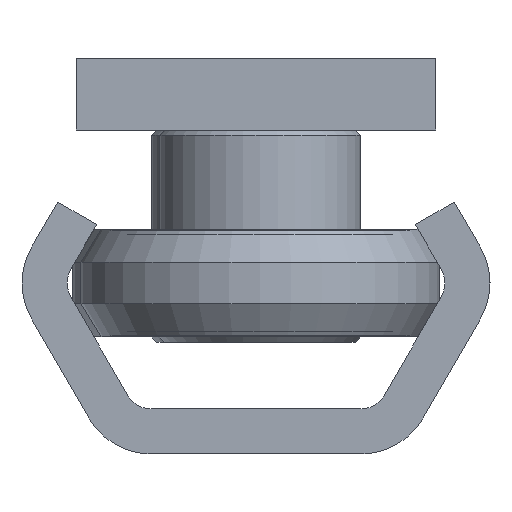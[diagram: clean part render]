
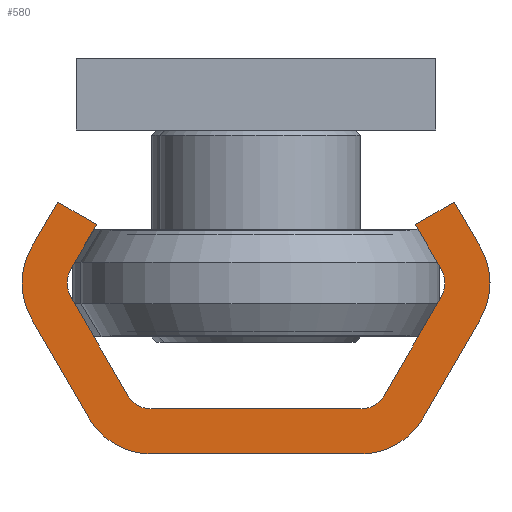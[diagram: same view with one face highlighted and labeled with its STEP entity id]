
A CAD part, left-side view. The second image highlights one B-rep face of the part: STEP entity #580.
In plain terms, the highlighted planar face has unit normal (-1, 0, 0).
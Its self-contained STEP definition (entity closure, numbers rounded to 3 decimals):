
#580 = ADVANCED_FACE( '', ( #1191 ), #1192, .F. );
#1191 = FACE_OUTER_BOUND( '', #1991, .T. );
#1192 = PLANE( '', #1992 );
#1991 = EDGE_LOOP( '', ( #3062, #3063, #3064, #3065, #3066, #3067, #3068, #3069, #3070, #3071, #3072, #3073, #3074, #3075, #3076, #3077, #3078, #3079, #3080, #3081 ) );
#1992 = AXIS2_PLACEMENT_3D( '', #3082, #3083, #3084 );
#3062 = ORIENTED_EDGE( '', *, *, #3287, .F. );
#3063 = ORIENTED_EDGE( '', *, *, #3473, .F. );
#3064 = ORIENTED_EDGE( '', *, *, #3501, .F. );
#3065 = ORIENTED_EDGE( '', *, *, #3329, .F. );
#3066 = ORIENTED_EDGE( '', *, *, #3269, .F. );
#3067 = ORIENTED_EDGE( '', *, *, #3643, .F. );
#3068 = ORIENTED_EDGE( '', *, *, #3663, .F. );
#3069 = ORIENTED_EDGE( '', *, *, #3664, .T. );
#3070 = ORIENTED_EDGE( '', *, *, #3338, .F. );
#3071 = ORIENTED_EDGE( '', *, *, #3562, .T. );
#3072 = ORIENTED_EDGE( '', *, *, #3620, .F. );
#3073 = ORIENTED_EDGE( '', *, *, #3490, .T. );
#3074 = ORIENTED_EDGE( '', *, *, #3574, .F. );
#3075 = ORIENTED_EDGE( '', *, *, #3468, .T. );
#3076 = ORIENTED_EDGE( '', *, *, #3485, .F. );
#3077 = ORIENTED_EDGE( '', *, *, #3346, .F. );
#3078 = ORIENTED_EDGE( '', *, *, #3628, .F. );
#3079 = ORIENTED_EDGE( '', *, *, #3353, .F. );
#3080 = ORIENTED_EDGE( '', *, *, #3543, .F. );
#3081 = ORIENTED_EDGE( '', *, *, #3665, .F. );
#3082 = CARTESIAN_POINT( '', ( 0., -5.825, -4. ) );
#3083 = DIRECTION( '', ( 1., 0., 0. ) );
#3084 = DIRECTION( '', ( 0., 0., -1. ) );
#3269 = EDGE_CURVE( '', #3724, #3725, #3726, .T. );
#3287 = EDGE_CURVE( '', #3757, #3758, #3759, .T. );
#3329 = EDGE_CURVE( '', #3725, #3830, #3831, .T. );
#3338 = EDGE_CURVE( '', #3844, #3845, #3846, .T. );
#3346 = EDGE_CURVE( '', #3858, #3859, #3860, .T. );
#3353 = EDGE_CURVE( '', #3870, #3871, #3872, .T. );
#3468 = EDGE_CURVE( '', #4059, #4060, #4061, .T. );
#3473 = EDGE_CURVE( '', #4068, #3757, #4069, .T. );
#3485 = EDGE_CURVE( '', #3859, #4060, #4087, .T. );
#3490 = EDGE_CURVE( '', #4092, #4093, #4094, .T. );
#3501 = EDGE_CURVE( '', #3830, #4068, #4111, .T. );
#3543 = EDGE_CURVE( '', #4166, #3870, #4167, .T. );
#3562 = EDGE_CURVE( '', #3844, #4192, #4193, .T. );
#3574 = EDGE_CURVE( '', #4059, #4093, #4208, .T. );
#3620 = EDGE_CURVE( '', #4092, #4192, #4264, .T. );
#3628 = EDGE_CURVE( '', #3871, #3858, #4274, .T. );
#3643 = EDGE_CURVE( '', #4290, #3724, #4291, .T. );
#3663 = EDGE_CURVE( '', #4313, #4290, #4314, .T. );
#3664 = EDGE_CURVE( '', #4313, #3845, #4315, .T. );
#3665 = EDGE_CURVE( '', #3758, #4166, #4316, .T. );
#3724 = VERTEX_POINT( '', #4376 );
#3725 = VERTEX_POINT( '', #4377 );
#3726 = LINE( '', #4378, #4379 );
#3757 = VERTEX_POINT( '', #4413 );
#3758 = VERTEX_POINT( '', #4414 );
#3759 = LINE( '', #4415, #4416 );
#3830 = VERTEX_POINT( '', #4504 );
#3831 = CIRCLE( '', #4505, 4. );
#3844 = VERTEX_POINT( '', #4519 );
#3845 = VERTEX_POINT( '', #4520 );
#3846 = LINE( '', #4521, #4522 );
#3858 = VERTEX_POINT( '', #4537 );
#3859 = VERTEX_POINT( '', #4538 );
#3860 = LINE( '', #4539, #4540 );
#3870 = VERTEX_POINT( '', #4553 );
#3871 = VERTEX_POINT( '', #4554 );
#3872 = CIRCLE( '', #4555, 4. );
#4059 = VERTEX_POINT( '', #4779 );
#4060 = VERTEX_POINT( '', #4780 );
#4061 = CIRCLE( '', #4781, 1.5 );
#4068 = VERTEX_POINT( '', #4790 );
#4069 = CIRCLE( '', #4791, 4. );
#4087 = LINE( '', #4812, #4813 );
#4092 = VERTEX_POINT( '', #4819 );
#4093 = VERTEX_POINT( '', #4820 );
#4094 = CIRCLE( '', #4821, 1.5 );
#4111 = LINE( '', #4841, #4842 );
#4166 = VERTEX_POINT( '', #4909 );
#4167 = LINE( '', #4910, #4911 );
#4192 = VERTEX_POINT( '', #4941 );
#4193 = CIRCLE( '', #4942, 1.5 );
#4208 = LINE( '', #4958, #4959 );
#4264 = LINE( '', #5027, #5028 );
#4274 = LINE( '', #5043, #5044 );
#4290 = VERTEX_POINT( '', #5061 );
#4291 = LINE( '', #5062, #5063 );
#4313 = VERTEX_POINT( '', #5090 );
#4314 = LINE( '', #5091, #5092 );
#4315 = CIRCLE( '', #5093, 1.5 );
#4316 = CIRCLE( '', #5094, 4. );
#4376 = CARTESIAN_POINT( '', ( 0., 11.021, -14. ) );
#4377 = CARTESIAN_POINT( '', ( 0., 12.464, -11.5 ) );
#4378 = CARTESIAN_POINT( '', ( 0., 11.021, -14. ) );
#4379 = VECTOR( '', #5161, 1000. );
#4413 = CARTESIAN_POINT( '', ( 0., 5.825, 0. ) );
#4414 = CARTESIAN_POINT( '', ( 0., -5.825, 0. ) );
#4415 = CARTESIAN_POINT( '', ( 0., 5.825, 0. ) );
#4416 = VECTOR( '', #5198, 1000. );
#4504 = CARTESIAN_POINT( '', ( 0., 12.464, -7.5 ) );
#4505 = AXIS2_PLACEMENT_3D( '', #5255, #5256, #5257 );
#4519 = CARTESIAN_POINT( '', ( 0., 7.124, -3.25 ) );
#4520 = CARTESIAN_POINT( '', ( 0., 10.299, -8.75 ) );
#4521 = CARTESIAN_POINT( '', ( 0., 7.124, -3.25 ) );
#4522 = VECTOR( '', #5271, 1000. );
#4537 = CARTESIAN_POINT( '', ( 0., -11.021, -14. ) );
#4538 = CARTESIAN_POINT( '', ( 0., -8.856, -12.75 ) );
#4539 = CARTESIAN_POINT( '', ( 0., -11.021, -14. ) );
#4540 = VECTOR( '', #5281, 1000. );
#4553 = CARTESIAN_POINT( '', ( 0., -12.464, -7.5 ) );
#4554 = CARTESIAN_POINT( '', ( 0., -12.464, -11.5 ) );
#4555 = AXIS2_PLACEMENT_3D( '', #5288, #5289, #5290 );
#4779 = CARTESIAN_POINT( '', ( 0., -10.299, -8.75 ) );
#4780 = CARTESIAN_POINT( '', ( 0., -10.299, -10.25 ) );
#4781 = AXIS2_PLACEMENT_3D( '', #5472, #5473, #5474 );
#4790 = CARTESIAN_POINT( '', ( 0., 9.289, -2. ) );
#4791 = AXIS2_PLACEMENT_3D( '', #5480, #5481, #5482 );
#4812 = CARTESIAN_POINT( '', ( 0., -8.856, -12.75 ) );
#4813 = VECTOR( '', #5498, 1000. );
#4819 = CARTESIAN_POINT( '', ( 0., -5.825, -2.5 ) );
#4820 = CARTESIAN_POINT( '', ( 0., -7.124, -3.25 ) );
#4821 = AXIS2_PLACEMENT_3D( '', #5503, #5504, #5505 );
#4841 = CARTESIAN_POINT( '', ( 0., 12.464, -7.5 ) );
#4842 = VECTOR( '', #5521, 1000. );
#4909 = CARTESIAN_POINT( '', ( 0., -9.289, -2. ) );
#4910 = CARTESIAN_POINT( '', ( 0., -9.289, -2. ) );
#4911 = VECTOR( '', #5564, 1000. );
#4941 = CARTESIAN_POINT( '', ( 0., 5.825, -2.5 ) );
#4942 = AXIS2_PLACEMENT_3D( '', #5588, #5589, #5590 );
#4958 = CARTESIAN_POINT( '', ( 0., -10.299, -8.75 ) );
#4959 = VECTOR( '', #5616, 1000. );
#5027 = CARTESIAN_POINT( '', ( 0., -5.825, -2.5 ) );
#5028 = VECTOR( '', #5671, 1000. );
#5043 = CARTESIAN_POINT( '', ( 0., -12.464, -11.5 ) );
#5044 = VECTOR( '', #5677, 1000. );
#5061 = CARTESIAN_POINT( '', ( 0., 8.856, -12.75 ) );
#5062 = CARTESIAN_POINT( '', ( 0., 8.856, -12.75 ) );
#5063 = VECTOR( '', #5691, 1000. );
#5090 = CARTESIAN_POINT( '', ( 0., 10.299, -10.25 ) );
#5091 = CARTESIAN_POINT( '', ( 0., 10.299, -10.25 ) );
#5092 = VECTOR( '', #5700, 1000. );
#5093 = AXIS2_PLACEMENT_3D( '', #5701, #5702, #5703 );
#5094 = AXIS2_PLACEMENT_3D( '', #5704, #5705, #5706 );
#5161 = DIRECTION( '', ( 0., 0.5, 0.866 ) );
#5198 = DIRECTION( '', ( 0., -1., 0. ) );
#5255 = CARTESIAN_POINT( '', ( 0., 9., -9.5 ) );
#5256 = DIRECTION( '', ( 1., 0., 0. ) );
#5257 = DIRECTION( '', ( 0., 0., -1. ) );
#5271 = DIRECTION( '', ( 0., 0.5, -0.866 ) );
#5281 = DIRECTION( '', ( 0., 0.866, 0.5 ) );
#5288 = CARTESIAN_POINT( '', ( 0., -9., -9.5 ) );
#5289 = DIRECTION( '', ( 1., 0., 0. ) );
#5290 = DIRECTION( '', ( 0., 0., -1. ) );
#5472 = CARTESIAN_POINT( '', ( 0., -9., -9.5 ) );
#5473 = DIRECTION( '', ( 1., 0., 0. ) );
#5474 = DIRECTION( '', ( 0., 0., -1. ) );
#5480 = CARTESIAN_POINT( '', ( 0., 5.825, -4. ) );
#5481 = DIRECTION( '', ( 1., 0., 0. ) );
#5482 = DIRECTION( '', ( 0., 0., -1. ) );
#5498 = DIRECTION( '', ( 0., -0.5, 0.866 ) );
#5503 = CARTESIAN_POINT( '', ( 0., -5.825, -4. ) );
#5504 = DIRECTION( '', ( 1., 0., 0. ) );
#5505 = DIRECTION( '', ( 0., 0., -1. ) );
#5521 = DIRECTION( '', ( 0., -0.5, 0.866 ) );
#5564 = DIRECTION( '', ( 0., -0.5, -0.866 ) );
#5588 = CARTESIAN_POINT( '', ( 0., 5.825, -4. ) );
#5589 = DIRECTION( '', ( 1., 0., 0. ) );
#5590 = DIRECTION( '', ( 0., 0., -1. ) );
#5616 = DIRECTION( '', ( 0., 0.5, 0.866 ) );
#5671 = DIRECTION( '', ( 0., 1., 0. ) );
#5677 = DIRECTION( '', ( 0., 0.5, -0.866 ) );
#5691 = DIRECTION( '', ( 0., 0.866, -0.5 ) );
#5700 = DIRECTION( '', ( 0., -0.5, -0.866 ) );
#5701 = CARTESIAN_POINT( '', ( 0., 9., -9.5 ) );
#5702 = DIRECTION( '', ( 1., 0., 0. ) );
#5703 = DIRECTION( '', ( 0., 0., -1. ) );
#5704 = CARTESIAN_POINT( '', ( 0., -5.825, -4. ) );
#5705 = DIRECTION( '', ( 1., 0., 0. ) );
#5706 = DIRECTION( '', ( 0., 0., -1. ) );
